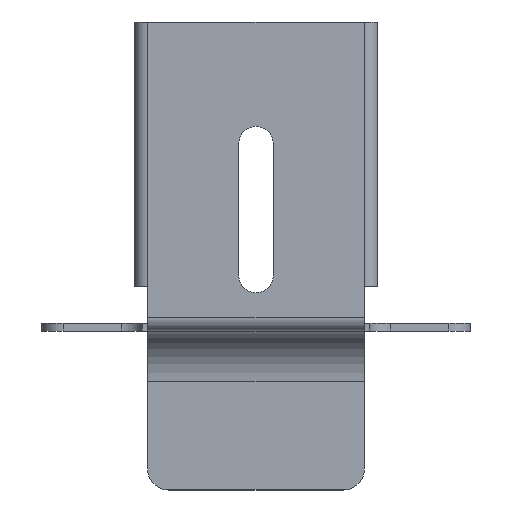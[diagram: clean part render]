
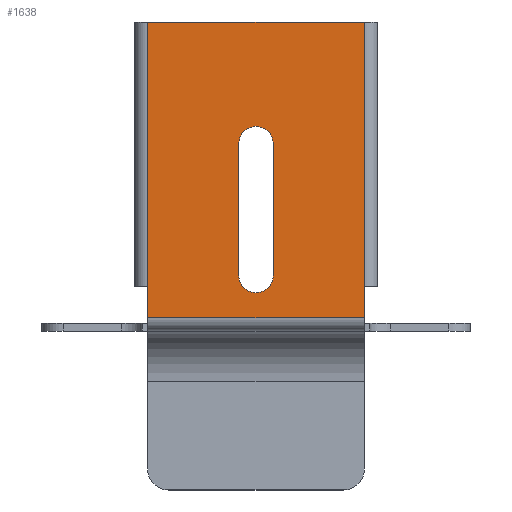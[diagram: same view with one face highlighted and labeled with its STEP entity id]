
A CAD part, top view. The second image highlights one B-rep face of the part: STEP entity #1638.
In plain terms, the highlighted planar face has unit normal (0, 0, 1).
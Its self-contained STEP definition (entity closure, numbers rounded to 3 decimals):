
#12 = LINE ( 'NONE', #878, #1998 ) ;
#32 = CARTESIAN_POINT ( 'NONE',  ( 20.5, -31., 0. ) ) ;
#75 = CARTESIAN_POINT ( 'NONE',  ( 20.5, 25., 0. ) ) ;
#99 = DIRECTION ( 'NONE',  ( -1., 0., 0. ) ) ;
#145 = DIRECTION ( 'NONE',  ( -1., 0., 0. ) ) ;
#165 = VERTEX_POINT ( 'NONE', #1084 ) ;
#176 = VERTEX_POINT ( 'NONE', #2552 ) ;
#229 = CARTESIAN_POINT ( 'NONE',  ( 3.25, 2., 0. ) ) ;
#263 = DIRECTION ( 'NONE',  ( 0., 1., 0. ) ) ;
#292 = CARTESIAN_POINT ( 'NONE',  ( -20.5, -31., 0. ) ) ;
#362 = ORIENTED_EDGE ( 'NONE', *, *, #2415, .F. ) ;
#392 = CARTESIAN_POINT ( 'NONE',  ( 20.5, -25., 0. ) ) ;
#419 = AXIS2_PLACEMENT_3D ( 'NONE', #1631, #1196, #145 ) ;
#433 = LINE ( 'NONE', #32, #2132 ) ;
#442 = DIRECTION ( 'NONE',  ( 0., -1., 0. ) ) ;
#575 = VECTOR ( 'NONE', #2606, 1000. ) ;
#604 = FACE_OUTER_BOUND ( 'NONE', #1621, .T. ) ;
#645 = ORIENTED_EDGE ( 'NONE', *, *, #1875, .T. ) ;
#650 = DIRECTION ( 'NONE',  ( 0., 1., 0. ) ) ;
#710 = VECTOR ( 'NONE', #650, 1000. ) ;
#741 = VERTEX_POINT ( 'NONE', #2111 ) ;
#767 = VERTEX_POINT ( 'NONE', #1927 ) ;
#772 = CARTESIAN_POINT ( 'NONE',  ( 0., 2., 0. ) ) ;
#812 = EDGE_CURVE ( 'NONE', #1986, #176, #1308, .T. ) ;
#878 = CARTESIAN_POINT ( 'NONE',  ( -3.25, 2., 0. ) ) ;
#883 = EDGE_CURVE ( 'NONE', #2299, #1986, #1562, .T. ) ;
#896 = AXIS2_PLACEMENT_3D ( 'NONE', #1416, #2670, #1406 ) ;
#909 = VERTEX_POINT ( 'NONE', #911 ) ;
#911 = CARTESIAN_POINT ( 'NONE',  ( 20.5, -31., 0. ) ) ;
#922 = VERTEX_POINT ( 'NONE', #1954 ) ;
#970 = VERTEX_POINT ( 'NONE', #1903 ) ;
#990 = DIRECTION ( 'NONE',  ( 0., 0., 1. ) ) ;
#1021 = LINE ( 'NONE', #1524, #1876 ) ;
#1039 = DIRECTION ( 'NONE',  ( 0., 1., 0. ) ) ;
#1084 = CARTESIAN_POINT ( 'NONE',  ( -20.5, -31., 0. ) ) ;
#1090 = EDGE_CURVE ( 'NONE', #1764, #767, #2240, .T. ) ;
#1180 = ORIENTED_EDGE ( 'NONE', *, *, #1090, .F. ) ;
#1196 = DIRECTION ( 'NONE',  ( 0., 0., -1. ) ) ;
#1308 = LINE ( 'NONE', #1962, #2214 ) ;
#1331 = EDGE_LOOP ( 'NONE', ( #362, #1180, #1390, #2659 ) ) ;
#1345 = EDGE_CURVE ( 'NONE', #165, #970, #1021, .T. ) ;
#1346 = ORIENTED_EDGE ( 'NONE', *, *, #2032, .T. ) ;
#1359 = LINE ( 'NONE', #292, #2267 ) ;
#1390 = ORIENTED_EDGE ( 'NONE', *, *, #2712, .F. ) ;
#1406 = DIRECTION ( 'NONE',  ( 1., 0., 0. ) ) ;
#1416 = CARTESIAN_POINT ( 'NONE',  ( 0., -23., 0. ) ) ;
#1440 = CARTESIAN_POINT ( 'NONE',  ( 3.25, 2., 0. ) ) ;
#1524 = CARTESIAN_POINT ( 'NONE',  ( -20.5, -31., 0. ) ) ;
#1536 = LINE ( 'NONE', #229, #710 ) ;
#1562 = LINE ( 'NONE', #2185, #575 ) ;
#1576 = ORIENTED_EDGE ( 'NONE', *, *, #2263, .T. ) ;
#1620 = VECTOR ( 'NONE', #2632, 1000. ) ;
#1621 = EDGE_LOOP ( 'NONE', ( #1346, #1710, #645, #1576, #2003, #1897 ) ) ;
#1631 = CARTESIAN_POINT ( 'NONE',  ( 21.5, 25., 0. ) ) ;
#1638 = ADVANCED_FACE ( 'NONE', ( #1845, #604 ), #2685, .F. ) ;
#1650 = LINE ( 'NONE', #2417, #1620 ) ;
#1710 = ORIENTED_EDGE ( 'NONE', *, *, #1345, .F. ) ;
#1764 = VERTEX_POINT ( 'NONE', #1440 ) ;
#1845 = FACE_BOUND ( 'NONE', #1331, .T. ) ;
#1875 = EDGE_CURVE ( 'NONE', #165, #909, #1359, .T. ) ;
#1876 = VECTOR ( 'NONE', #263, 1000. ) ;
#1897 = ORIENTED_EDGE ( 'NONE', *, *, #812, .T. ) ;
#1903 = CARTESIAN_POINT ( 'NONE',  ( -20.5, -25., 0. ) ) ;
#1927 = CARTESIAN_POINT ( 'NONE',  ( -3.25, 2., 0. ) ) ;
#1954 = CARTESIAN_POINT ( 'NONE',  ( -3.25, -23., 0. ) ) ;
#1962 = CARTESIAN_POINT ( 'NONE',  ( -21.5, 25., 0. ) ) ;
#1986 = VERTEX_POINT ( 'NONE', #75 ) ;
#1998 = VECTOR ( 'NONE', #442, 1000. ) ;
#2003 = ORIENTED_EDGE ( 'NONE', *, *, #883, .T. ) ;
#2032 = EDGE_CURVE ( 'NONE', #176, #970, #1650, .T. ) ;
#2111 = CARTESIAN_POINT ( 'NONE',  ( 3.25, -23., 0. ) ) ;
#2123 = EDGE_CURVE ( 'NONE', #922, #741, #2234, .T. ) ;
#2132 = VECTOR ( 'NONE', #1039, 1000. ) ;
#2174 = DIRECTION ( 'NONE',  ( 1., 0., 0. ) ) ;
#2185 = CARTESIAN_POINT ( 'NONE',  ( 20.5, -25., 0. ) ) ;
#2214 = VECTOR ( 'NONE', #99, 1000. ) ;
#2234 = CIRCLE ( 'NONE', #896, 3.25 ) ;
#2240 = CIRCLE ( 'NONE', #2400, 3.25 ) ;
#2241 = DIRECTION ( 'NONE',  ( 1., 0., 0. ) ) ;
#2263 = EDGE_CURVE ( 'NONE', #909, #2299, #433, .T. ) ;
#2267 = VECTOR ( 'NONE', #2174, 1000. ) ;
#2299 = VERTEX_POINT ( 'NONE', #392 ) ;
#2400 = AXIS2_PLACEMENT_3D ( 'NONE', #772, #990, #2241 ) ;
#2415 = EDGE_CURVE ( 'NONE', #767, #922, #12, .T. ) ;
#2417 = CARTESIAN_POINT ( 'NONE',  ( -20.5, 25., 0. ) ) ;
#2552 = CARTESIAN_POINT ( 'NONE',  ( -20.5, 25., 0. ) ) ;
#2606 = DIRECTION ( 'NONE',  ( 0., 1., 0. ) ) ;
#2632 = DIRECTION ( 'NONE',  ( 0., -1., 0. ) ) ;
#2659 = ORIENTED_EDGE ( 'NONE', *, *, #2123, .F. ) ;
#2670 = DIRECTION ( 'NONE',  ( 0., 0., 1. ) ) ;
#2685 = PLANE ( 'NONE',  #419 ) ;
#2712 = EDGE_CURVE ( 'NONE', #741, #1764, #1536, .T. ) ;
